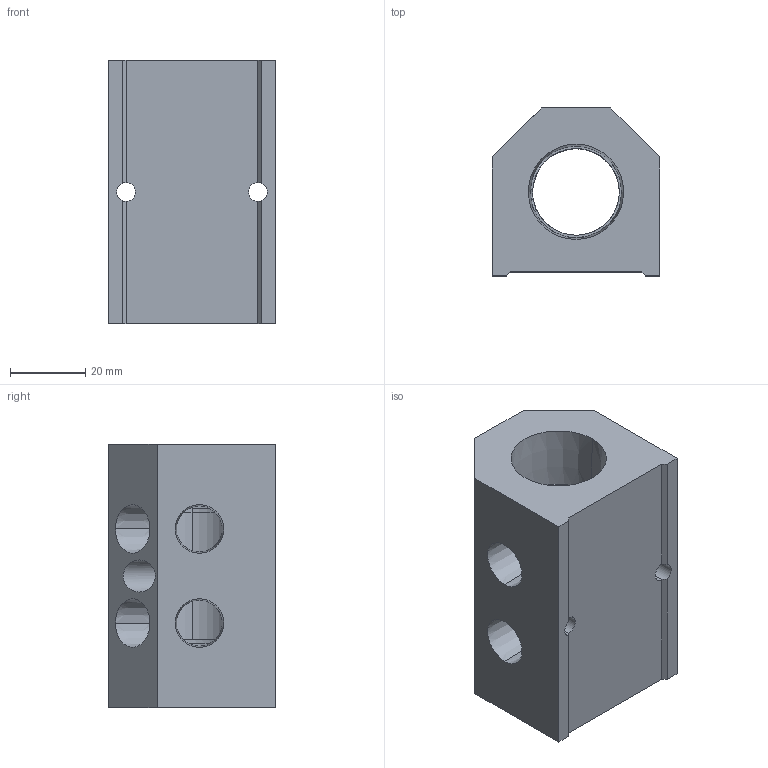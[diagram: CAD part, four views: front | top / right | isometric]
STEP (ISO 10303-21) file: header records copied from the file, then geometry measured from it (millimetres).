
FILE_DESCRIPTION (( 'STEP AP214' ), '1' );
FILE_NAME ('ALM2AB-N4N12-70B.step', '2022-02-06T14:10:17', ( '' ), ( '' ), 'SwSTEP 2.0', 'SolidWorks 2020', '' );
FILE_SCHEMA (( 'AUTOMOTIVE_DESIGN' ));
Length unit declared in the file: millimetre
Products named in the file (1): ALM2AB-N4N12-70B
Bounding box: 44.5 x 44.5 x 70 mm (x, y, z)
Volume: 85576.4 mm3; surface area: 21225 mm2
Topology: 1 solids, 1 shells, 285 faces, 765 edges, 508 vertices
Faces by surface type: plane 204, bspline 47, cone 17, cylinder 17
Entity records: 12473 total; most frequent: CARTESIAN_POINT 5534, ORIENTED_EDGE 1530, DIRECTION 1137, EDGE_CURVE 765, VECTOR 567, LINE 567, VERTEX_POINT 508, EDGE_LOOP 325
